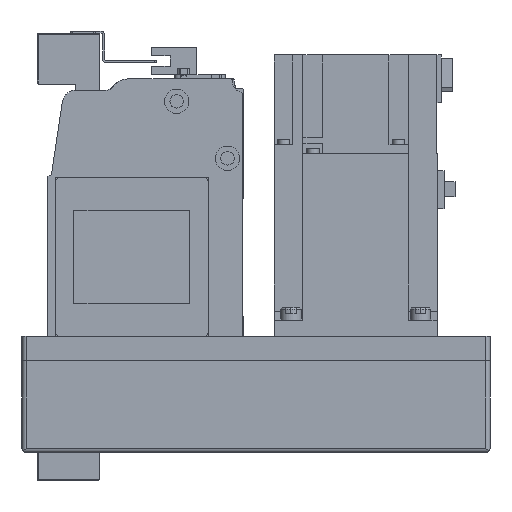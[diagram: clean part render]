
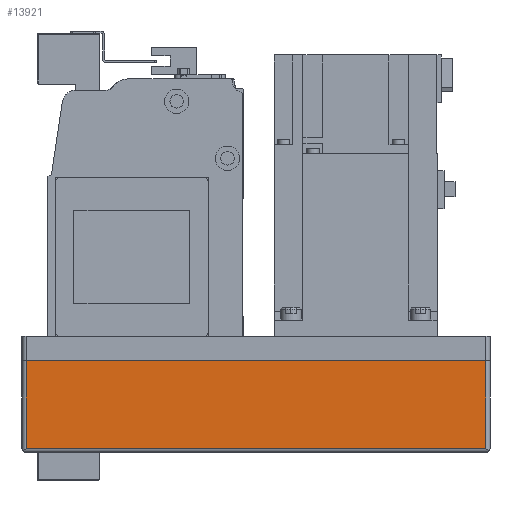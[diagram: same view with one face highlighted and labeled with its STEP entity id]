
A CAD part, left-side view. The second image highlights one B-rep face of the part: STEP entity #13921.
In plain terms, the highlighted planar face has unit normal (-1, 0, 0) as drawn and (0, 1, 0) by its records, which use the part's own axes.
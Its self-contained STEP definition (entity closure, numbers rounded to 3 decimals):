
#2512=ORIENTED_EDGE('',*,*,#5780,.F.);
#2513=ORIENTED_EDGE('',*,*,#5720,.T.);
#2514=ORIENTED_EDGE('',*,*,#5781,.F.);
#2515=ORIENTED_EDGE('',*,*,#5715,.F.);
#5715=EDGE_CURVE('',#7498,#7499,#8956,.T.);
#5720=EDGE_CURVE('',#7504,#7503,#8958,.T.);
#5780=EDGE_CURVE('',#7504,#7498,#9001,.T.);
#5781=EDGE_CURVE('',#7499,#7503,#9002,.T.);
#7498=VERTEX_POINT('',#21796);
#7499=VERTEX_POINT('',#21798);
#7503=VERTEX_POINT('',#21807);
#7504=VERTEX_POINT('',#21809);
#8956=LINE('',#21797,#10269);
#8958=LINE('',#21808,#10271);
#9001=LINE('',#21931,#10314);
#9002=LINE('',#21932,#10315);
#10269=VECTOR('',#17409,1000.);
#10271=VECTOR('',#17419,1000.);
#10314=VECTOR('',#17540,1000.);
#10315=VECTOR('',#17541,1000.);
#11422=EDGE_LOOP('',(#2512,#2513,#2514,#2515));
#12461=FACE_BOUND('',#11422,.T.);
#13332=PLANE('',#14960);
#13921=ADVANCED_FACE('',(#12461),#13332,.T.);
#14960=AXIS2_PLACEMENT_3D('',#21930,#17538,#17539);
#17409=DIRECTION('',(0.,0.,1.));
#17419=DIRECTION('',(0.,0.,1.));
#17538=DIRECTION('',(0.,1.,0.));
#17539=DIRECTION('',(0.,0.,1.));
#17540=DIRECTION('',(1.,0.,0.));
#17541=DIRECTION('',(-1.,0.,0.));
#21796=CARTESIAN_POINT('',(-2.,54.,-55.));
#21797=CARTESIAN_POINT('',(-2.,54.,-57.));
#21798=CARTESIAN_POINT('',(-2.,54.,-12.));
#21807=CARTESIAN_POINT('',(-228.,54.,-12.));
#21808=CARTESIAN_POINT('',(-228.,54.,-57.));
#21809=CARTESIAN_POINT('',(-228.,54.,-55.));
#21930=CARTESIAN_POINT('',(-2.,54.,-57.));
#21931=CARTESIAN_POINT('',(-230.,54.,-55.));
#21932=CARTESIAN_POINT('',(-2.,54.,-12.));
